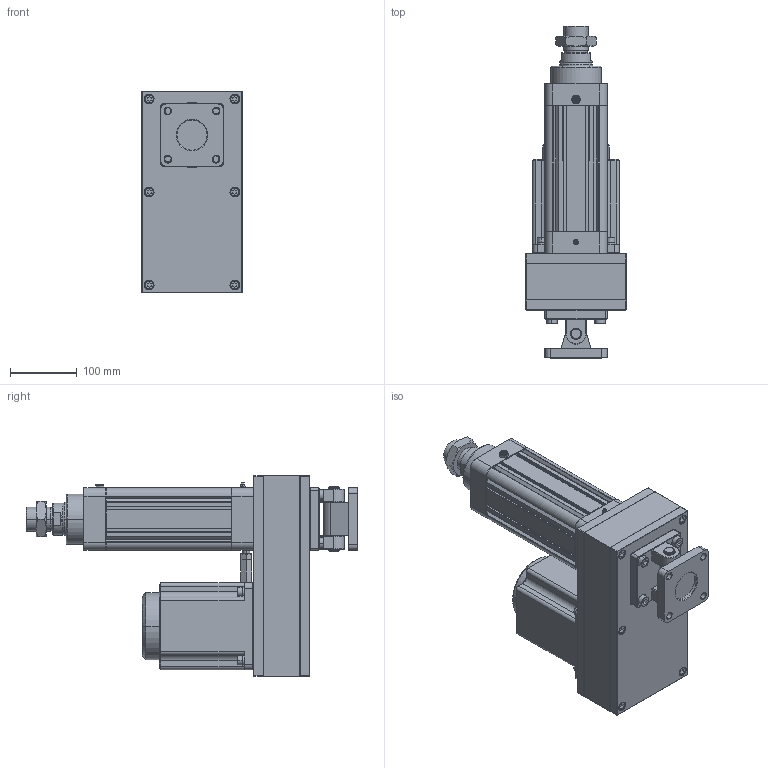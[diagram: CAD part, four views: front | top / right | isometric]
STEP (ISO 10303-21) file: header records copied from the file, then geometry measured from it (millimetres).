
FILE_DESCRIPTION((''),'2;1');
FILE_NAME('HE80-D-P_ASM','2020-05-14T',('ASUS20200'),(''),'CREO PARAMETRIC BY PTC INC, 2014190','CREO PARAMETRIC BY PTC INC, 2014190','');
FILE_SCHEMA(('CONFIG_CONTROL_DESIGN'));
Length unit declared in the file: millimetre
Products named in the file (30): HE80-D-P-001-X1; HE80-D-P-002-X1; HE80-D-P-003-X1; 30304J; YZ-M6X1; SLM-01; JDB506030; HE80-100-D-P-X1_ASM; HE80-P-010-X1-130N; 130ST-M10010; M10X25; HE80-P-009-X1-130N; HE80-P-013-X1-130N; TD-8; M8X35; M8X75; LM-M8-7-5; M10X1-25-40; LM-M10-30; LM-M10; HE80-D-P-005-X1; HE80-D-P-004-X1; HE80-D-P-008-X1; LGLM-M10-25; F-SE80CB; F-SE80CB-XD; F-SE80CB_ASM; F-SE80CA; M10X30; HE80-D-P_ASM
Assembly tree (53 placements, depth 3):
  HE80-D-P_ASM
    HE80-100-D-P-X1_ASM
      HE80-D-P-001-X1
      HE80-D-P-002-X1
      HE80-D-P-003-X1
      30304J  x2
      YZ-M6X1
      SLM-01
      JDB506030
    HE80-P-010-X1-130N
    130ST-M10010
    M10X25  x4
    HE80-P-009-X1-130N
    HE80-P-013-X1-130N
    TD-8  x4
    M8X35  x4
    M8X75  x6
    LM-M8-7-5  x4
    M10X1-25-40
    LM-M10-30
    LM-M10
    HE80-D-P-005-X1
    HE80-D-P-004-X1
    HE80-D-P-008-X1
    LGLM-M10-25  x4
    F-SE80CB_ASM
      F-SE80CB
      F-SE80CB-XD
    F-SE80CA
    M10X30  x4
Bounding box: 150 x 496 x 300 mm (x, y, z)
Volume: 5574604.3 mm3; surface area: 981290.8 mm2
Topology: 51 solids, 85 shells, 2748 faces, 6318 edges, 3773 vertices
Faces by surface type: plane 1011, cone 858, cylinder 727, torus 122, sphere 26, bspline 4
Entity records: 63499 total; most frequent: CARTESIAN_POINT 12110, DIRECTION 11313, ORIENTED_EDGE 9958, EDGE_CURVE 5038, AXIS2_PLACEMENT_3D 4307, VERTEX_POINT 3008, VECTOR 2699, LINE 2699
